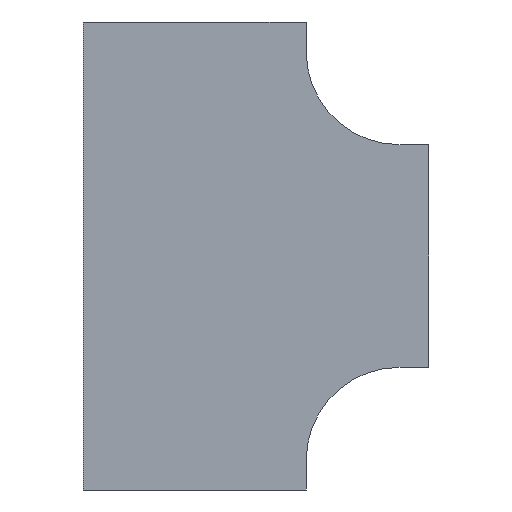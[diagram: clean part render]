
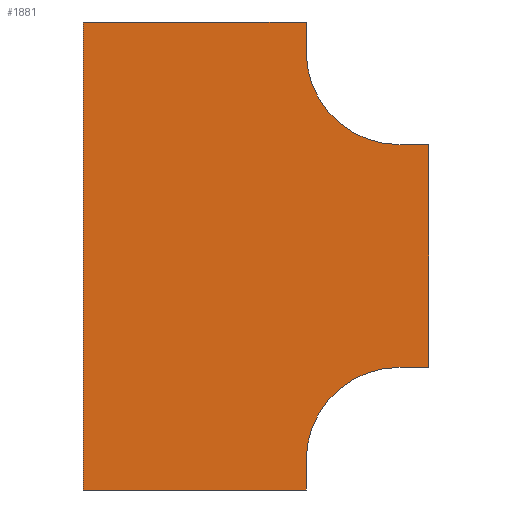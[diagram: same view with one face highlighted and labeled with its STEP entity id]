
A CAD part, front view. The second image highlights one B-rep face of the part: STEP entity #1881.
In plain terms, the highlighted planar face has unit normal (0, -1, 0).
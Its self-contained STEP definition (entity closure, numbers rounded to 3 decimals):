
#38 = AXIS2_PLACEMENT_3D ( 'NONE', #816, #583, #1318 ) ;
#42 = LINE ( 'NONE', #70, #1456 ) ;
#70 = CARTESIAN_POINT ( 'NONE',  ( -125., 0., 40. ) ) ;
#74 = CARTESIAN_POINT ( 'NONE',  ( -125., 0., -550. ) ) ;
#89 = CARTESIAN_POINT ( 'NONE',  ( -425., 0., -590. ) ) ;
#138 = VERTEX_POINT ( 'NONE', #2274 ) ;
#156 = DIRECTION ( 'NONE',  ( 0., 0., -1. ) ) ;
#163 = DIRECTION ( 'NONE',  ( -1., 0., 0. ) ) ;
#170 = DIRECTION ( 'NONE',  ( 0., 0., -1. ) ) ;
#195 = PLANE ( 'NONE',  #1556 ) ;
#222 = CIRCLE ( 'NONE', #38, 125. ) ;
#227 = CARTESIAN_POINT ( 'NONE',  ( -125., 0., 40. ) ) ;
#248 = CIRCLE ( 'NONE', #1634, 125. ) ;
#289 = VERTEX_POINT ( 'NONE', #1651 ) ;
#312 = VECTOR ( 'NONE', #156, 1000. ) ;
#337 = LINE ( 'NONE', #1011, #312 ) ;
#354 = DIRECTION ( 'NONE',  ( 0., -1., 0. ) ) ;
#376 = FACE_OUTER_BOUND ( 'NONE', #1146, .T. ) ;
#377 = VERTEX_POINT ( 'NONE', #1917 ) ;
#467 = EDGE_CURVE ( 'NONE', #289, #138, #337, .T. ) ;
#475 = LINE ( 'NONE', #2123, #2319 ) ;
#509 = CARTESIAN_POINT ( 'NONE',  ( -425., 0., 40. ) ) ;
#523 = VECTOR ( 'NONE', #2001, 1000. ) ;
#545 = VERTEX_POINT ( 'NONE', #227 ) ;
#583 = DIRECTION ( 'NONE',  ( 0., -1., 0. ) ) ;
#584 = ORIENTED_EDGE ( 'NONE', *, *, #1304, .F. ) ;
#603 = VERTEX_POINT ( 'NONE', #1117 ) ;
#661 = VERTEX_POINT ( 'NONE', #1205 ) ;
#671 = LINE ( 'NONE', #1626, #1176 ) ;
#712 = DIRECTION ( 'NONE',  ( -1., 0., 0. ) ) ;
#730 = EDGE_CURVE ( 'NONE', #1405, #1487, #1791, .T. ) ;
#754 = EDGE_CURVE ( 'NONE', #138, #1276, #475, .T. ) ;
#800 = DIRECTION ( 'NONE',  ( 0., 0., -1. ) ) ;
#806 = ORIENTED_EDGE ( 'NONE', *, *, #1726, .F. ) ;
#816 = CARTESIAN_POINT ( 'NONE',  ( 0., 0., 0. ) ) ;
#860 = DIRECTION ( 'NONE',  ( 1., 0., 0. ) ) ;
#870 = CARTESIAN_POINT ( 'NONE',  ( -125., 0., -590. ) ) ;
#888 = VERTEX_POINT ( 'NONE', #74 ) ;
#930 = DIRECTION ( 'NONE',  ( 0., 0., -1. ) ) ;
#933 = EDGE_CURVE ( 'NONE', #661, #603, #222, .T. ) ;
#1011 = CARTESIAN_POINT ( 'NONE',  ( 40., 0., -125. ) ) ;
#1050 = ORIENTED_EDGE ( 'NONE', *, *, #933, .F. ) ;
#1066 = LINE ( 'NONE', #870, #2046 ) ;
#1117 = CARTESIAN_POINT ( 'NONE',  ( 0., 0., -125. ) ) ;
#1146 = EDGE_LOOP ( 'NONE', ( #1363, #1410, #1861, #1937, #806, #1588, #1656, #2126, #1050, #584 ) ) ;
#1152 = EDGE_CURVE ( 'NONE', #1487, #545, #1811, .T. ) ;
#1176 = VECTOR ( 'NONE', #860, 1000. ) ;
#1205 = CARTESIAN_POINT ( 'NONE',  ( -125., 0., 0. ) ) ;
#1238 = LINE ( 'NONE', #1787, #1680 ) ;
#1276 = VERTEX_POINT ( 'NONE', #1494 ) ;
#1304 = EDGE_CURVE ( 'NONE', #545, #661, #42, .T. ) ;
#1318 = DIRECTION ( 'NONE',  ( 0., 0., -1. ) ) ;
#1363 = ORIENTED_EDGE ( 'NONE', *, *, #1152, .F. ) ;
#1405 = VERTEX_POINT ( 'NONE', #89 ) ;
#1410 = ORIENTED_EDGE ( 'NONE', *, *, #730, .F. ) ;
#1429 = DIRECTION ( 'NONE',  ( 0., 0., 1. ) ) ;
#1456 = VECTOR ( 'NONE', #800, 1000. ) ;
#1461 = DIRECTION ( 'NONE',  ( 0., 0., 1. ) ) ;
#1487 = VERTEX_POINT ( 'NONE', #2031 ) ;
#1494 = CARTESIAN_POINT ( 'NONE',  ( 0., 0., -425. ) ) ;
#1556 = AXIS2_PLACEMENT_3D ( 'NONE', #1858, #1682, #930 ) ;
#1588 = ORIENTED_EDGE ( 'NONE', *, *, #754, .F. ) ;
#1618 = CARTESIAN_POINT ( 'NONE',  ( -425., 0., -590. ) ) ;
#1626 = CARTESIAN_POINT ( 'NONE',  ( 0., 0., -125. ) ) ;
#1634 = AXIS2_PLACEMENT_3D ( 'NONE', #1637, #354, #1461 ) ;
#1637 = CARTESIAN_POINT ( 'NONE',  ( 0., 0., -550. ) ) ;
#1651 = CARTESIAN_POINT ( 'NONE',  ( 40., 0., -125. ) ) ;
#1656 = ORIENTED_EDGE ( 'NONE', *, *, #467, .F. ) ;
#1680 = VECTOR ( 'NONE', #712, 1000. ) ;
#1682 = DIRECTION ( 'NONE',  ( 0., -1., 0. ) ) ;
#1707 = EDGE_CURVE ( 'NONE', #377, #1405, #1238, .T. ) ;
#1726 = EDGE_CURVE ( 'NONE', #1276, #888, #248, .T. ) ;
#1758 = EDGE_CURVE ( 'NONE', #888, #377, #1066, .T. ) ;
#1787 = CARTESIAN_POINT ( 'NONE',  ( -425., 0., -590. ) ) ;
#1791 = LINE ( 'NONE', #1618, #2201 ) ;
#1811 = LINE ( 'NONE', #509, #523 ) ;
#1858 = CARTESIAN_POINT ( 'NONE',  ( 0., 0., 0. ) ) ;
#1861 = ORIENTED_EDGE ( 'NONE', *, *, #1707, .F. ) ;
#1881 = ADVANCED_FACE ( 'NONE', ( #376 ), #195, .T. ) ;
#1917 = CARTESIAN_POINT ( 'NONE',  ( -125., 0., -590. ) ) ;
#1937 = ORIENTED_EDGE ( 'NONE', *, *, #1758, .F. ) ;
#2001 = DIRECTION ( 'NONE',  ( 1., 0., 0. ) ) ;
#2031 = CARTESIAN_POINT ( 'NONE',  ( -425., 0., 40. ) ) ;
#2046 = VECTOR ( 'NONE', #170, 1000. ) ;
#2123 = CARTESIAN_POINT ( 'NONE',  ( 0., 0., -425. ) ) ;
#2126 = ORIENTED_EDGE ( 'NONE', *, *, #2211, .F. ) ;
#2201 = VECTOR ( 'NONE', #1429, 1000. ) ;
#2211 = EDGE_CURVE ( 'NONE', #603, #289, #671, .T. ) ;
#2274 = CARTESIAN_POINT ( 'NONE',  ( 40., 0., -425. ) ) ;
#2319 = VECTOR ( 'NONE', #163, 1000. ) ;
